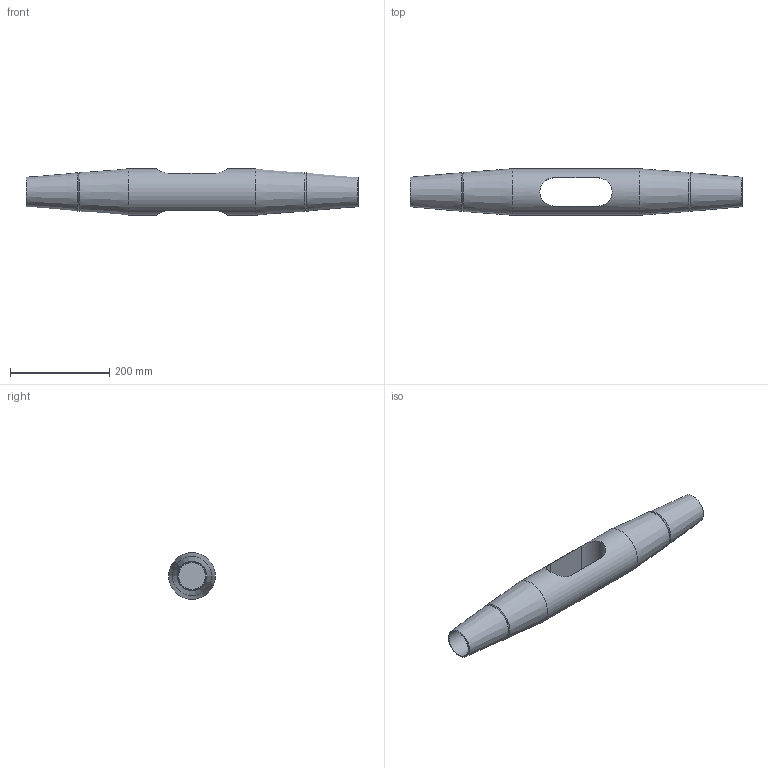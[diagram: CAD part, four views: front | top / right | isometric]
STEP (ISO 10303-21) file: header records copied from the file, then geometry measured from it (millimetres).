
FILE_DESCRIPTION(/* description */ (''),/* implementation_level */ '2;1');
FILE_NAME(/* name */ 'G:\Engineering\700 CAD\Internet-PX-1-step-igs-dxf\520-KMF-Arbeitsdateien\520-052-KMF.stp',/* time_stamp */ '2020-07-02T13:24:20+02:00',/* author */ ('schwarz'),/* organization */ (''),/* preprocessor_version */ 'ST-DEVELOPER v16.1',/* originating_system */ 'Autodesk Inventor 2016',/* authorisation */ '');
FILE_SCHEMA (('AUTOMOTIVE_DESIGN { 1 0 10303 214 3 1 1 }'));
Length unit declared in the file: centimetre
Products named in the file (1): Kreuzmuffen-Set 520 052 Kunde
Bounding box: 670 x 94 x 94 mm (x, y, z)
Volume: 2706712.3 mm3; surface area: 221828.9 mm2
Topology: 1 solids, 1 shells, 21 faces, 41 edges, 24 vertices
Faces by surface type: cone 10, plane 6, cylinder 5
Full cylindrical faces by diameter (mm): 54.5 x2, 94 x1
Entity records: 653 total; most frequent: CARTESIAN_POINT 206, DIRECTION 84, ORIENTED_EDGE 56, EDGE_LOOP 38, AXIS2_PLACEMENT_3D 38, EDGE_CURVE 28, VERTEX_POINT 24, STYLED_ITEM 22
